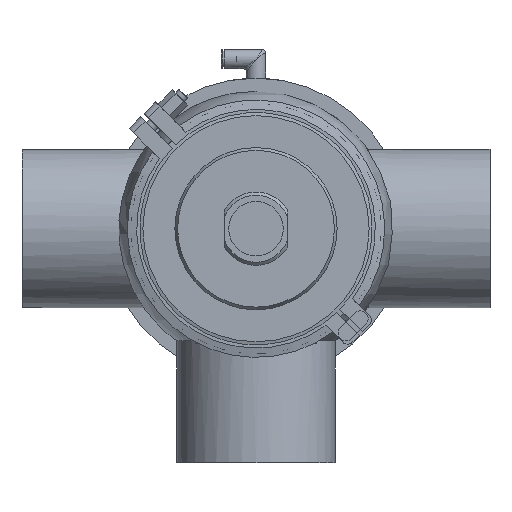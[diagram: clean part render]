
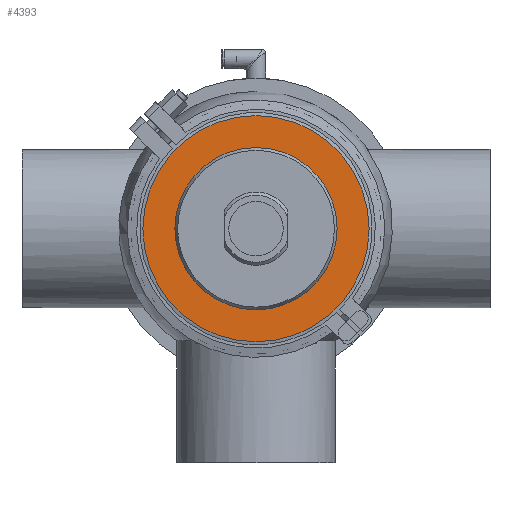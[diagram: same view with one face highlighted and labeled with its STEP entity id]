
A CAD part, front view. The second image highlights one B-rep face of the part: STEP entity #4393.
In plain terms, the highlighted planar face has unit normal (0, -1, 0).
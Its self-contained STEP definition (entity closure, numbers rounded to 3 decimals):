
#774 = CARTESIAN_POINT ( 'NONE',  ( -72.5, -13., 0. ) ) ;
#1117 = FACE_BOUND ( 'NONE', #15630, .T. ) ;
#1606 = DIRECTION ( 'NONE',  ( 0., 0., 1. ) ) ;
#4092 = AXIS2_PLACEMENT_3D ( 'NONE', #774, #8000, #6501 ) ;
#4393 = ADVANCED_FACE ( 'NONE', ( #1117, #22179 ), #22528, .T. ) ;
#4410 = VERTEX_POINT ( 'NONE', #7895 ) ;
#5343 = CIRCLE ( 'NONE', #22156, 52. ) ;
#5373 = CARTESIAN_POINT ( 'NONE',  ( 0., -13., 0. ) ) ;
#6501 = DIRECTION ( 'NONE',  ( 0., 0., -1. ) ) ;
#6728 = ORIENTED_EDGE ( 'NONE', *, *, #17577, .F. ) ;
#7236 = EDGE_CURVE ( 'NONE', #4410, #4410, #5343, .T. ) ;
#7241 = DIRECTION ( 'NONE',  ( 0., 1., 0. ) ) ;
#7895 = CARTESIAN_POINT ( 'NONE',  ( 0., -13., 52. ) ) ;
#8000 = DIRECTION ( 'NONE',  ( 0., -1., 0. ) ) ;
#9967 = CARTESIAN_POINT ( 'NONE',  ( 0., -13., 72.5 ) ) ;
#12472 = VERTEX_POINT ( 'NONE', #9967 ) ;
#12494 = DIRECTION ( 'NONE',  ( 0., 1., 0. ) ) ;
#12637 = DIRECTION ( 'NONE',  ( 0., 0., 1. ) ) ;
#13184 = AXIS2_PLACEMENT_3D ( 'NONE', #19755, #12494, #1606 ) ;
#15630 = EDGE_LOOP ( 'NONE', ( #20277 ) ) ;
#16918 = CIRCLE ( 'NONE', #13184, 72.5 ) ;
#17577 = EDGE_CURVE ( 'NONE', #12472, #12472, #16918, .T. ) ;
#19755 = CARTESIAN_POINT ( 'NONE',  ( 0., -13., 0. ) ) ;
#20277 = ORIENTED_EDGE ( 'NONE', *, *, #7236, .T. ) ;
#21389 = EDGE_LOOP ( 'NONE', ( #6728 ) ) ;
#22156 = AXIS2_PLACEMENT_3D ( 'NONE', #5373, #7241, #12637 ) ;
#22179 = FACE_OUTER_BOUND ( 'NONE', #21389, .T. ) ;
#22528 = PLANE ( 'NONE',  #4092 ) ;
